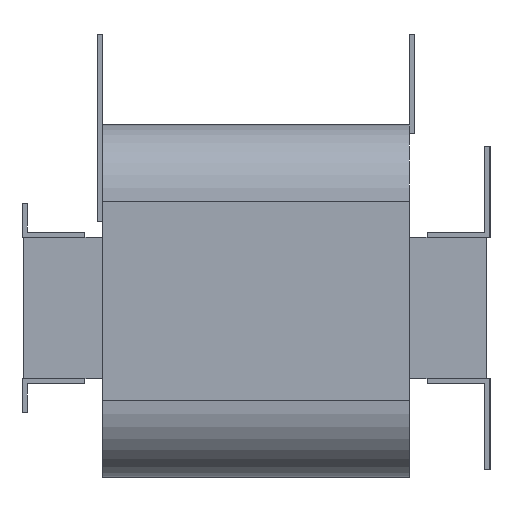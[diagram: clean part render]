
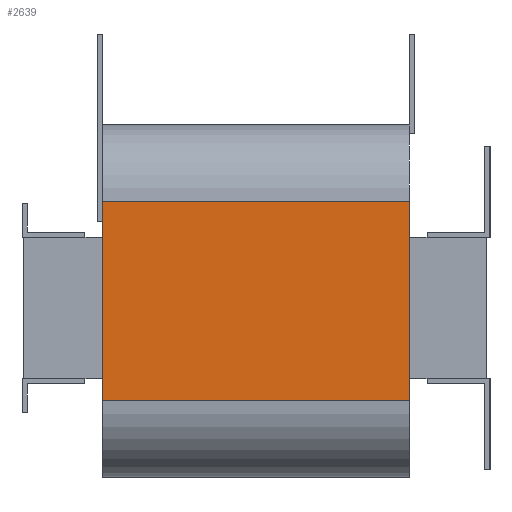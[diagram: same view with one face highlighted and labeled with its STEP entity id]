
A CAD part, left-side view. The second image highlights one B-rep face of the part: STEP entity #2639.
In plain terms, the highlighted planar face has unit normal (-1, 0, 0).
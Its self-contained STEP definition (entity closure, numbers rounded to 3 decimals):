
#114=PLANE('',#2843);
#243=FACE_OUTER_BOUND('',#393,.T.);
#393=EDGE_LOOP('',(#2263,#2264,#2265,#2266));
#670=LINE('',#4142,#996);
#689=LINE('',#4192,#1015);
#690=LINE('',#4195,#1016);
#691=LINE('',#4196,#1017);
#996=VECTOR('',#3383,10.);
#1015=VECTOR('',#3428,10.);
#1016=VECTOR('',#3431,10.);
#1017=VECTOR('',#3432,10.);
#1325=VERTEX_POINT('',#4139);
#1326=VERTEX_POINT('',#4141);
#1344=VERTEX_POINT('',#4190);
#1345=VERTEX_POINT('',#4194);
#1652=EDGE_CURVE('',#1325,#1326,#670,.T.);
#1678=EDGE_CURVE('',#1344,#1325,#689,.T.);
#1679=EDGE_CURVE('',#1344,#1345,#690,.T.);
#1680=EDGE_CURVE('',#1326,#1345,#691,.T.);
#2263=ORIENTED_EDGE('',*,*,#1678,.F.);
#2264=ORIENTED_EDGE('',*,*,#1679,.T.);
#2265=ORIENTED_EDGE('',*,*,#1680,.F.);
#2266=ORIENTED_EDGE('',*,*,#1652,.F.);
#2639=ADVANCED_FACE('',(#243),#114,.T.);
#2843=AXIS2_PLACEMENT_3D('',#4193,#3429,#3430);
#3383=DIRECTION('',(0.,0.,1.));
#3428=DIRECTION('',(0.,1.,0.));
#3429=DIRECTION('center_axis',(-1.,0.,0.));
#3430=DIRECTION('ref_axis',(0.,0.,1.));
#3431=DIRECTION('',(0.,0.,1.));
#3432=DIRECTION('',(0.,-1.,0.));
#4139=CARTESIAN_POINT('',(-236.,227.5,-54.5));
#4141=CARTESIAN_POINT('',(-236.,227.5,62.5));
#4142=CARTESIAN_POINT('',(-236.,227.5,-99.5));
#4190=CARTESIAN_POINT('',(-236.,47.5,-54.5));
#4192=CARTESIAN_POINT('',(-236.,47.5,-54.5));
#4193=CARTESIAN_POINT('Origin',(-236.,47.5,-99.5));
#4194=CARTESIAN_POINT('',(-236.,47.5,62.5));
#4195=CARTESIAN_POINT('',(-236.,47.5,-99.5));
#4196=CARTESIAN_POINT('',(-236.,47.5,62.5));
